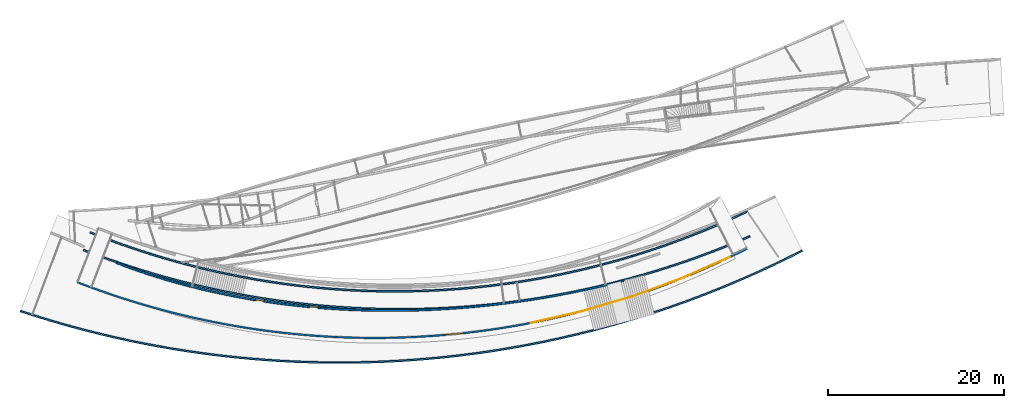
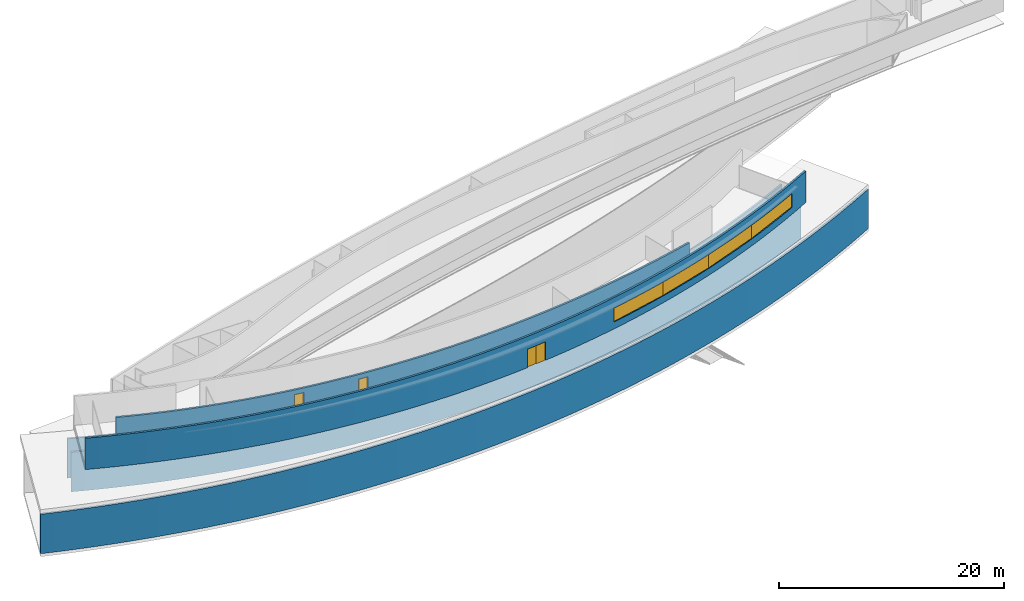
# Not in any storey, part 5 of 14: 5 walls, 4 windows, 3 doors, 7 openings.
"""IFC2X3 model written with IfcOpenShell, lengths in millimetres."""

from ifc_helpers import new_model, entity, si_unit, converted_unit, point, direction, frame, frame_2d, origin_with_axes, origin_2d, place, context, project, spatial, polyline, circle_curve, trimmed, segment, composite_curve, rectangle, outline, extrude, source, transform, mapped, material, layer, layer_set, layer_usage, type_object, element, fill, save


model = new_model("IFC2X3")

# Units and contexts
model_context = context("Model", 3, precision=1.0, world=origin_with_axes(), true_north=direction((0.0, 1.0)))
ifc_project = project(units=[si_unit("LENGTHUNIT", "METRE", prefix="MILLI"), converted_unit("PLANEANGLEUNIT", "DEGREE", entity("IfcRatioMeasure", 0.017453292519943), si_unit("PLANEANGLEUNIT", "RADIAN"), dimensions=[0, 0, 0, 0, 0, 0, 0])], contexts=[model_context])

# Site
site_placement = place(None, origin_with_axes())
site = spatial("IfcSite", under=ifc_project, at=site_placement, Name="Site", CompositionType="ELEMENT")

# Wall, openings, windows, door
ifc_material = material(Name="Wall layer 1")
ifc_layer = layer(ifc_material, 200.0)
ifc_layer_set = layer_set([ifc_layer], Name="HOKI 350")
ifc_layer_usage = layer_usage(ifc_layer_set, "AXIS2", "POSITIVE", -100.0)
wall_type = type_object("IfcWallType", Name="HOKI 350", PredefinedType="STANDARD", material=ifc_layer_set)
wall_1_placement = place(site_placement, frame((22986.8240910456, -6954.58752105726, 9600.0), z_axis=(0.0, 0.0, 1.0), x_axis=(-0.891143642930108, -0.453721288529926, 0.0)))
wall_1 = element("IfcWallStandardCase", 1, at=wall_1_placement, inside=site, type_object=wall_type, material=ifc_layer_usage, ObjectType="HOKI 350", context=model_context, shape_type="SweptSolid", body=[
    extrude(outline(composite_curve([segment(polyline([(69415.8720613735, -31159.3141078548), (69564.7279910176, -31025.7398954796)]), True, "CONTINUOUS"), segment(trimmed(circle_curve(frame_2d((1.05501e-10, -93200.0000001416), x_axis=(0.745602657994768, 0.666390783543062)), 93300.0000001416), [point((69564.7279910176, -31025.7398954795))], [point((7.276e-12, 99.9999999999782))], True, "CARTESIAN"), True, "CONTINUOUS"), segment(polyline([(1.4552e-11, 99.9999999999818), (2.842e-12, -100.000000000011)]), True, "CONTINUOUS"), segment(trimmed(circle_curve(frame_2d((-1.819e-11, -93200.0000001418), x_axis=(0.0, 1.0)), 93100.0000001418), [point((2.842e-12, -100.000000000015))], [point((69415.8720613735, -31159.3141078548))], False, "CARTESIAN"), True, "CONTINUOUS")], self_intersect="UNKNOWN")), origin_with_axes(), (0.0, 0.0, 1.0), 3400.0),
])
opening_1_placement = place(wall_1_placement, frame((22785.9073962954, -2878.11768940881, 749.999999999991), z_axis=(0.0, 0.0, 1.0), x_axis=(-0.969621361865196, 0.244610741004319, 0.0)))
opening_1 = element("IfcOpeningElement", 2, at=opening_1_placement, cuts=wall_1, Name="Opening", ObjectType="Opening", context=model_context, shape_type="SweptSolid", body=[
    extrude(rectangle(XDim=6000.0, YDim=1500.0, at=origin_2d()), frame((0.0, 6000.0, 750.0), z_axis=(0.0, -1.0, 0.0), x_axis=(1.0, 0.0, 0.0)), (0.0, 0.0, 1.0), 12000.0),
])
opening_2_placement = place(wall_1_placement, frame((16979.3912183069, -1608.84172663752, 750.000000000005), z_axis=(0.0, 0.0, 1.0), x_axis=(-0.983247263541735, 0.182276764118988, 0.0)))
opening_2 = element("IfcOpeningElement", 3, at=opening_2_placement, cuts=wall_1, Name="Opening", ObjectType="Opening", context=model_context, shape_type="SweptSolid", body=[
    extrude(rectangle(XDim=6000.0, YDim=1500.0, at=origin_2d()), frame((0.0, 6000.0, 750.0), z_axis=(0.0, -1.0, 0.0), x_axis=(1.0, 0.0, 0.0)), (0.0, 0.0, 1.0), 12000.0),
])
opening_3_placement = place(wall_1_placement, frame((11096.9910586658, -711.639708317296, 750.000000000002), z_axis=(0.0, 0.0, 1.0), x_axis=(-0.992878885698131, 0.119128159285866, 0.0)))
opening_3 = element("IfcOpeningElement", 4, at=opening_3_placement, cuts=wall_1, Name="Opening", ObjectType="Opening", context=model_context, shape_type="SweptSolid", body=[
    extrude(rectangle(XDim=6000.0, YDim=1500.0, at=origin_2d()), frame((0.0, 6000.0, 750.0), z_axis=(0.0, -1.0, 0.0), x_axis=(1.0, 0.0, 0.0)), (0.0, 0.0, 1.0), 12000.0),
])
opening_4_placement = place(wall_1_placement, frame((5165.82633339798, -191.644255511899, 750.000000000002), z_axis=(0.0, 0.0, 1.0), x_axis=(-0.998461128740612, 0.055456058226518, 0.0)))
opening_4 = element("IfcOpeningElement", 5, at=opening_4_placement, cuts=wall_1, Name="Opening", ObjectType="Opening", context=model_context, shape_type="SweptSolid", body=[
    extrude(rectangle(XDim=6000.0, YDim=1500.0, at=origin_2d()), frame((0.0, 6000.0, 750.0), z_axis=(0.0, -1.0, 0.0), x_axis=(1.0, 0.0, 0.0)), (0.0, 0.0, 1.0), 12000.0),
])
opening_5_placement = place(wall_1_placement, frame((33984.4822893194, -6422.7278400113, 0.005258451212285), z_axis=(0.0, 0.0, 1.0), x_axis=(-0.931140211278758, 0.36466135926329, -1e-15)))
opening_5 = element("IfcOpeningElement", 6, at=opening_5_placement, cuts=wall_1, Name="Opening", ObjectType="Opening", context=model_context, shape_type="SweptSolid", body=[
    extrude(rectangle(XDim=2000.0, YDim=2000.0, at=origin_2d()), frame((0.0, 1900.0, 1000.0), z_axis=(0.0, -1.0, 0.0), x_axis=(1.0, 0.0, 0.0)), (0.0, 0.0, 1.0), 3800.0),
])
window_style = type_object("IfcWindowStyle", Name="Fixed", ConstructionType="NOTDEFINED", OperationType="SINGLE_PANEL", ParameterTakesPrecedence=True, Sizeable=False)
shared_shape_1 = source(origin_with_axes(), model_context, "Body", "SweptSolid", [
    extrude(outline(composite_curve([segment(polyline([(0.0, 0.0), (0.0, 1500.0)]), True, "CONTINUOUS"), segment(polyline([(0.0, 1500.0), (-6000.0, 1500.0)]), True, "CONTINUOUS"), segment(polyline([(-6000.0, 1500.0), (-6000.0, 0.0)]), True, "CONTINUOUS"), segment(polyline([(-6000.0, 0.0), (0.0, 0.0)]), True, "CONTINUOUS")], self_intersect=False)), frame((-3000.0, -25.0, 1.819e-12), z_axis=(0.0, 1.0, 0.0), x_axis=(-1.0, 0.0, 0.0)), (0.0, 0.0, 1.0), 50.0),
])
window_1_placement = place(opening_1_placement, origin_with_axes())
window_1 = element("IfcWindow", 7, at=window_1_placement, inside=site, type_object=window_style, ObjectType="Fixed", OverallHeight=1500.0, OverallWidth=6000.0, shape_type="MappedRepresentation", body=[
    mapped(shared_shape_1, transform((0.0, 0.0, 0.0))),
])
fill(opening_1, window_1)
window_2_placement = place(opening_2_placement, origin_with_axes())
window_2 = element("IfcWindow", 8, at=window_2_placement, inside=site, type_object=window_style, ObjectType="Fixed", OverallHeight=1500.0, OverallWidth=6000.0, shape_type="MappedRepresentation", body=[
    mapped(shared_shape_1, transform((0.0, 0.0, 0.0))),
])
fill(opening_2, window_2)
window_3_placement = place(opening_3_placement, origin_with_axes())
window_3 = element("IfcWindow", 9, at=window_3_placement, inside=site, type_object=window_style, ObjectType="Fixed", OverallHeight=1500.0, OverallWidth=6000.0, shape_type="MappedRepresentation", body=[
    mapped(shared_shape_1, transform((0.0, 0.0, 0.0))),
])
fill(opening_3, window_3)
window_4_placement = place(opening_4_placement, origin_with_axes())
window_4 = element("IfcWindow", 10, at=window_4_placement, inside=site, type_object=window_style, ObjectType="Fixed", OverallHeight=1500.0, OverallWidth=6000.0, shape_type="MappedRepresentation", body=[
    mapped(shared_shape_1, transform((0.0, 0.0, 0.0))),
])
fill(opening_4, window_4)
door_style_1 = type_object("IfcDoorStyle", Name="HOKI entrance", ConstructionType="NOTDEFINED", OperationType="DOUBLE_DOOR_SLIDING", ParameterTakesPrecedence=True, Sizeable=False)
shared_shape_2 = source(origin_with_axes(), model_context, "Body", "SweptSolid", [
    extrude(outline(composite_curve([segment(polyline([(0.0, 0.0), (0.0, 1950.0)]), True, "CONTINUOUS"), segment(polyline([(0.0, 1950.0), (1900.0, 1950.0)]), True, "CONTINUOUS"), segment(polyline([(1900.0, 1950.0), (1900.0, 0.0)]), True, "CONTINUOUS"), segment(polyline([(1900.0, 0.0), (1950.0, 0.0)]), True, "CONTINUOUS"), segment(polyline([(1950.0, 0.0), (1950.0, 2000.0)]), True, "CONTINUOUS"), segment(polyline([(1950.0, 2000.0), (-50.0, 2000.0)]), True, "CONTINUOUS"), segment(polyline([(-50.0, 2000.0), (-50.0, 0.0)]), True, "CONTINUOUS"), segment(polyline([(-50.0, 0.0), (0.0, 0.0)]), True, "CONTINUOUS")], self_intersect=False)), frame((949.999999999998, -50.0, 3.638e-12), z_axis=(0.0, 1.0, 0.0), x_axis=(-1.0, 0.0, 0.0)), (0.0, 0.0, 1.0), 100.000000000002),
    extrude(outline(composite_curve([segment(polyline([(0.0, 0.0), (0.0, -1950.0)]), True, "CONTINUOUS"), segment(polyline([(0.0, -1950.0), (950.0, -1950.0)]), True, "CONTINUOUS"), segment(polyline([(950.0, -1950.0), (950.0, 0.0)]), True, "CONTINUOUS"), segment(polyline([(950.0, 0.0), (0.0, 0.0)]), True, "CONTINUOUS")], self_intersect=False)), frame((-3.638e-12, 1.819e-12, 1950.0), z_axis=(0.0, 1.0, 0.0), x_axis=(-1.0, 0.0, 0.0)), (0.0, 0.0, 1.0), 49.9999999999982),
    extrude(outline(composite_curve([segment(polyline([(0.0, 0.0), (0.0, 1950.0)]), True, "CONTINUOUS"), segment(polyline([(0.0, 1950.0), (-950.0, 1950.0)]), True, "CONTINUOUS"), segment(polyline([(-950.0, 1950.0), (-950.0, 0.0)]), True, "CONTINUOUS"), segment(polyline([(-950.0, 0.0), (0.0, 0.0)]), True, "CONTINUOUS")], self_intersect=False)), frame((-1.819e-12, -49.9999999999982, 1.819e-12), z_axis=(-3.6e-14, 1.0, 0.0), x_axis=(-1.0, -3.6e-14, 0.0)), (0.0, 0.0, 1.0), 50.0),
])
door_1_placement = place(opening_5_placement, origin_with_axes())
door_1 = element("IfcDoor", 11, at=door_1_placement, inside=site, type_object=door_style_1, ObjectType="HOKI entrance", OverallHeight=2000.0, OverallWidth=2000.0, shape_type="MappedRepresentation", body=[
    mapped(shared_shape_2, transform((0.0, 0.0, 0.0))),
])
fill(opening_5, door_1)

# Wall
wall_2_placement = place(site_placement, frame((23005.4725344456, -2731.30147245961, 4720.0), z_axis=(0.0, 0.0, 1.0), x_axis=(-0.902152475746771, -0.431417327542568, 0.0)))
element("IfcWallStandardCase", 12, at=wall_2_placement, inside=site, type_object=wall_type, material=ifc_layer_usage, ObjectType="HOKI 350", context=model_context, shape_type="SweptSolid", body=[
    extrude(outline(composite_curve([segment(polyline([(68269.5730359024, -30109.7913044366), (68416.9304861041, -29974.5663737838)]), True, "CONTINUOUS"), segment(trimmed(circle_curve(frame_2d((6.5484e-11, -92758.4613705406), x_axis=(0.736787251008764, 0.676124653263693)), 92858.4613705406), [point((68416.9304861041, -29974.5663737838))], [point((0.0, 100.000000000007))], True, "CARTESIAN"), True, "CONTINUOUS"), segment(polyline([(7.273e-12, 99.9999999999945), (1.881e-12, -100.000000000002)]), True, "CONTINUOUS"), segment(trimmed(circle_curve(frame_2d((-3.638e-11, -92758.4613705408), x_axis=(0.0, 1.0)), 92658.4613705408), [point((1.881e-12, -100.0))], [point((68269.5730359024, -30109.7913044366))], False, "CARTESIAN"), True, "CONTINUOUS")], self_intersect="UNKNOWN")), origin_with_axes(), (0.0, 0.0, 1.0), 4280.0),
])

# Wall, openings, doors
wall_3_placement = place(site_placement, frame((-48624.6791750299, -8555.02575011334, 9849.99645367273), z_axis=(0.0, 0.0, 1.0), x_axis=(0.932221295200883, -0.361888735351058, 0.0)))
wall_3 = element("IfcWallStandardCase", 13, at=wall_3_placement, inside=site, type_object=wall_type, material=ifc_layer_usage, ObjectType="HOKI 350", context=model_context, shape_type="SweptSolid", body=[
    extrude(outline(composite_curve([segment(polyline([(54499.1752148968, 18870.5823902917), (54382.558202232, 19033.0646119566)]), True, "CONTINUOUS"), segment(polyline([(54382.558202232, 19033.0646119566), (53641.359081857, 18505.8406612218), (52895.9803296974, 17985.0986751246), (52146.2279499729, 17470.6699086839), (51391.907946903, 16962.3856169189), (50625.7670611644, 16455.4602923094), (49855.6376175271, 15955.2057872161), (49081.3076038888, 15461.4771803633), (48302.5650081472, 14974.1295504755), (47523.1580852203, 14495.4194298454), (46740.2873269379, 14023.5755772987), (45953.8209492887, 13558.5502342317), (45163.6271682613, 13100.2956420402), (44369.5741998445, 12648.7640421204), (43571.530260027, 12203.9076758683), (42769.3635647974, 11765.67878468), (41962.9423301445, 11334.0296099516), (41152.8408670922, 10909.3041121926), (40339.6749809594, 10491.8658694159), (39523.3106644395, 10081.6623972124), (38703.6139102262, 9678.64121117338), (37880.4507110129, 9282.74982688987), (37053.6870594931, 8893.93575995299), (36223.1889483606, 8512.14652595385), (35388.8223703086, 8137.32964048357), (34969.2066035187, 7952.11442439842), (34548.9007919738, 7768.79670539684), (34127.8710787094, 7587.36845136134), (33706.0836067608, 7407.82163017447), (33283.5045191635, 7230.14820971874), (32860.0999589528, 7054.34015787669), (32435.8360691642, 6880.38944253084), (32010.678992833, 6708.28803156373), (31587.2573304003, 6539.08638664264), (31163.2083390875, 6371.83062450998), (30738.4958241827, 6206.51648180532), (30313.0835909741, 6043.13969516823), (29886.9354447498, 5881.69600123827), (29460.015190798, 5722.18113665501), (29032.2866344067, 5564.59083805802), (28603.7135808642, 5408.92084208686), (28171.0889069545, 5254.04566607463), (27737.8795277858, 5101.24553581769), (27304.0479881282, 4950.51404717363), (26869.5568327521, 4801.84479600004), (26434.3686064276, 4655.23137815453), (25998.4458539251, 4510.66738949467), (25561.7511200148, 4368.14642587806), (25124.246949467, 4227.66208316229), (24691.0675383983, 4090.82720256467), (24257.3853512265, 3956.08393072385), (23823.1619602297, 3823.42839515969), (23388.3589376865, 3692.85672339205), (22952.9378558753, 3564.36504294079), (22516.8602870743, 3437.94948132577), (22080.087803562, 3313.60616606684), (21642.5819776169, 3191.33122468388), (21197.9809880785, 3069.4046419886), (20752.9367659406, 2949.71362702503), (20307.4069010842, 2832.25915334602), (19861.3489833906, 2717.04219450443), (19414.7206027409, 2604.0637240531), (18967.4793490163, 2493.32471554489), (18519.5828120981, 2384.82614253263), (18070.9885818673, 2278.56897856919), (17629.502144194, 2176.35185576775), (17187.6650411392, 2076.40269603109), (16745.4327662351, 1978.72764828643), (16302.7608130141, 1883.33286146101), (15859.6046750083, 1790.22448448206), (15415.91984575, 1699.40866627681), (14971.6618187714, 1610.89155577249), (14526.7860876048, 1524.67930189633), (14072.3459552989, 1439.1312604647), (13617.6283267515, 1356.08923019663), (13162.5849315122, 1275.55686169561), (12707.1674991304, 1197.53780556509), (12251.3277591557, 1122.03571240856), (11795.0174411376, 1049.05423282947), (11338.1882746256, 978.597017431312), (10880.7919891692, 910.667716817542), (10433.6106500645, 846.789887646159), (9986.26992610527, 785.410704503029), (9538.72003355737, 726.541217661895), (9090.91118868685, 670.192477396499), (8642.79360775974, 616.375533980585), (8194.31750704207, 565.101437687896), (7745.43310279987, 516.381238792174), (7296.09061129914, 470.225987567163), (6834.35136213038, 425.535086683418), (6372.56947465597, 383.635394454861), (5910.68878845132, 344.541861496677), (5448.65314309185, 308.269438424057), (4986.40637815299, 274.833075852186), (4523.89233321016, 244.247724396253), (4061.05484783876, 216.528334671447), (3597.83776161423, 191.689857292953), (3148.1516011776, 170.368067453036), (2698.56687606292, 151.822431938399), (2249.0266457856, 136.073524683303), (1799.4739698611, 123.141919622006), (1349.85190780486, 113.048190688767), (900.103519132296, 105.812911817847), (450.171863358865, 101.456656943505), (-6e-15, 100.0)]), True, "CONTINUOUS"), segment(polyline([(-6e-15, 100.0), (-7.27e-12, -100.000000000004)]), True, "CONTINUOUS"), segment(polyline([(-7.27e-12, -100.000000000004), (451.251599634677, -98.537467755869), (902.432805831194, -94.1646735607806), (1353.54145513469, -86.9038212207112), (1804.5753840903, -76.777114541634), (2255.53242924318, -63.8067573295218), (2706.41042713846, -48.0149533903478), (3157.20721432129, -29.4239065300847), (3607.92062733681, -8.05582055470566), (4072.18253487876, 16.8409381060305), (4536.230182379, 44.6370190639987), (5000.06241674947, 75.3130535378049), (5463.6780849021, 108.849672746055), (5927.07603374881, 145.227507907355), (6390.25511020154, 184.427190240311), (6853.21416117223, 226.429350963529), (7315.95203357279, 271.214621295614), (7766.25296461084, 317.470241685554), (8216.24720964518, 366.314487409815), (8665.93201630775, 417.729767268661), (9115.30463223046, 471.698490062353), (9564.36230504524, 528.203064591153), (10013.102282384, 587.225899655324), (10461.5218118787, 648.749404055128), (10909.6181411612, 712.755986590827), (11367.9397923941, 780.824565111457), (11825.8429064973, 851.45088191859), (12283.3247335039, 924.62263788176), (12740.3825234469, 1000.3275338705), (13197.0135263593, 1078.55327075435), (13653.2149922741, 1159.28754940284), (14108.9841712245, 1242.51807068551), (14564.3183132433, 1328.23253547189), (15010.0575126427, 1414.61374405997), (15455.3150738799, 1503.33304416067), (15900.0882208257, 1594.37415814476), (16344.3741773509, 1687.720808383), (16788.1701673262, 1783.35671724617), (17231.4734146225, 1881.26560710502), (17674.2811431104, 1981.43120033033), (18116.5905766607, 2083.83721929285), (18566.0122265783, 2190.29192003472), (19014.8681544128, 2299.02579739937), (19463.1552650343, 2410.02619701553), (19910.8704633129, 2523.2804645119), (20358.0106541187, 2638.7759455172), (20804.5727423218, 2756.49998566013), (21250.5536327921, 2876.43993056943), (21695.9502303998, 2998.58312587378), (22134.2327737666, 3121.07656909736), (22571.9074431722, 3245.67939782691), (23008.9697522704, 3372.38267914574), (23445.4152147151, 3501.17748013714), (23881.2393441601, 3632.0548678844), (24316.4376542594, 3765.00590947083), (24751.0056586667, 3900.02167197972), (25184.9388710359, 4037.09322249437), (25623.2010446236, 4177.82237206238), (26060.7766564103, 4320.63347022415), (26497.6612281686, 4465.51865896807), (26933.850281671, 4612.47008028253), (27369.3393386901, 4761.47987615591), (27804.1239209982, 4912.54018857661), (28238.199550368, 5065.64315953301), (28671.561748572, 5220.78093101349), (29100.8567938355, 5376.71448928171), (29529.4226770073, 5534.61575431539), (29957.2558668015, 5694.47380054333), (30384.3528319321, 5856.27770239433), (30810.7100411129, 6020.01653429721), (31236.323963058, 6185.67937068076), (31661.1910664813, 6353.25528597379), (32085.3078200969, 6522.73335460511), (32511.1576804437, 6695.11647576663), (32936.2262940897, 6869.3995292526), (33360.5092395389, 7045.57433005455), (33784.0020952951, 7223.63269316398), (34206.7004398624, 7403.56643357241), (34628.5998517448, 7585.36736627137), (35049.6959094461, 7769.02730625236), (35469.9841914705, 7954.53806850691), (36305.6763835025, 8329.9554142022), (37137.7127701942, 8712.46118346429), (37966.1542689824, 9102.07227223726), (38791.0617973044, 9498.8055764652), (39612.4962725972, 9902.67799209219), (40430.5186122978, 10313.7064150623), (41245.1897338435, 10731.9077413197), (42056.5705546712, 11157.2988668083), (42864.2509445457, 11589.6269266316), (43667.8746541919, 12028.6610385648), (44467.5045786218, 12474.4093027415), (45263.2036128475, 12926.8798192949), (46055.0346518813, 13386.0806883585), (46843.0605907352, 13852.0200100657), (47627.3443244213, 14324.7058845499), (48407.9487479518, 14804.1464119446), (49187.9857297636, 15292.3080397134), (49963.8717093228, 15787.0316865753), (50735.5523074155, 16288.2908594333), (51502.9731448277, 16796.0590651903), (52258.5542848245, 17305.197196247), (53009.825922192, 17820.6713936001), (53756.7216883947, 18342.4702580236), (54499.1752148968, 18870.5823902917)]), True, "CONTINUOUS")], self_intersect="UNKNOWN")), origin_with_axes(), (0.0, 0.0, 1.0), 2500.0),
])
opening_6_placement = place(wall_3_placement, frame((22727.3713739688, 3395.69860423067, 0.0), z_axis=(0.0, 0.0, 1.0), x_axis=(0.960563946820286, 0.278059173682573, 0.0)))
opening_6 = element("IfcOpeningElement", 14, at=opening_6_placement, cuts=wall_3, Name="Opening", ObjectType="Opening", context=model_context, shape_type="SweptSolid", body=[
    extrude(rectangle(XDim=900.0, YDim=2000.0, at=origin_2d()), frame((0.0, 800.0, 1000.0), z_axis=(0.0, -1.0, 0.0), x_axis=(1.0, 0.0, 0.0)), (0.0, 0.0, 1.0), 1600.0),
])
opening_7_placement = place(wall_3_placement, frame((16738.5927159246, 1876.06397901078, 0.0), z_axis=(0.0, 0.0, 1.0), x_axis=(0.977085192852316, 0.212848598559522, -2e-15)))
opening_7 = element("IfcOpeningElement", 15, at=opening_7_placement, cuts=wall_3, Name="Opening", ObjectType="Opening", context=model_context, shape_type="SweptSolid", body=[
    extrude(rectangle(XDim=900.0, YDim=2000.0, at=origin_2d()), frame((0.0, 800.0, 1000.0), z_axis=(0.0, -1.0, 0.0), x_axis=(1.0, 0.0, 0.0)), (0.0, 0.0, 1.0), 1600.0),
])
door_style_2 = type_object("IfcDoorStyle", Name="HOKI", ConstructionType="NOTDEFINED", OperationType="SINGLE_SWING_LEFT", ParameterTakesPrecedence=True, Sizeable=False)
shared_shape_3 = source(origin_with_axes(), model_context, "Body", "SweptSolid", [
    extrude(outline(composite_curve([segment(polyline([(0.0, 0.0), (0.0, 1950.0)]), True, "CONTINUOUS"), segment(polyline([(0.0, 1950.0), (-800.0, 1950.0)]), True, "CONTINUOUS"), segment(polyline([(-800.0, 1950.0), (-800.0, 0.0)]), True, "CONTINUOUS"), segment(polyline([(-800.0, 0.0), (0.0, 0.0)]), True, "CONTINUOUS")], self_intersect=False)), frame((-400.000000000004, 0.0, 0.0), z_axis=(7.3e-14, 1.0, 0.0), x_axis=(-1.0, 7.3e-14, 0.0)), (0.0, 0.0, 1.0), 50.0000000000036),
    extrude(outline(composite_curve([segment(polyline([(0.0, 0.0), (0.0, 1950.0)]), True, "CONTINUOUS"), segment(polyline([(0.0, 1950.0), (800.0, 1950.0)]), True, "CONTINUOUS"), segment(polyline([(800.0, 1950.0), (800.0, 0.0)]), True, "CONTINUOUS"), segment(polyline([(800.0, 0.0), (850.0, 0.0)]), True, "CONTINUOUS"), segment(polyline([(850.0, 0.0), (850.0, 2000.0)]), True, "CONTINUOUS"), segment(polyline([(850.0, 2000.0), (-50.0, 2000.0)]), True, "CONTINUOUS"), segment(polyline([(-50.0, 2000.0), (-50.0, 0.0)]), True, "CONTINUOUS"), segment(polyline([(-50.0, 0.0), (0.0, 0.0)]), True, "CONTINUOUS")], self_intersect=False)), frame((400.0, -50.0, 1.819e-12), z_axis=(-3.6e-14, 1.0, 0.0), x_axis=(-1.0, -3.6e-14, 0.0)), (0.0, 0.0, 1.0), 100.0),
])
door_2_placement = place(opening_6_placement, origin_with_axes())
door_2 = element("IfcDoor", 16, at=door_2_placement, inside=site, type_object=door_style_2, ObjectType="HOKI", OverallHeight=2000.0, OverallWidth=900.0, shape_type="MappedRepresentation", body=[
    mapped(shared_shape_3, transform((0.0, 0.0, 0.0))),
])
fill(opening_6, door_2)
door_3_placement = place(opening_7_placement, origin_with_axes())
door_3 = element("IfcDoor", 17, at=door_3_placement, inside=site, type_object=door_style_2, ObjectType="HOKI", OverallHeight=2000.0, OverallWidth=900.0, shape_type="MappedRepresentation", body=[
    mapped(shared_shape_3, transform((0.0, 0.0, 0.0))),
])
fill(opening_7, door_3)

# Walls
wall_4_placement = place(site_placement, frame((23301.8343740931, -5554.32817820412, 4720.0), z_axis=(0.0, 0.0, 1.0), x_axis=(-0.916614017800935, -0.399773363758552, 0.0)))
element("IfcWallStandardCase", 18, at=wall_4_placement, inside=site, type_object=wall_type, material=ifc_layer_usage, ObjectType="HOKI 350", context=model_context, shape_type="SweptSolid", body=[
    extrude(outline(composite_curve([segment(polyline([(69911.8155104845, -28898.7731235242), (70052.6840427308, -28756.8010959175)]), True, "CONTINUOUS"), segment(trimmed(circle_curve(frame_2d((-5.457e-11, -99358.2436909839), x_axis=(0.704342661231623, 0.709860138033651)), 99458.2436909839), [point((70052.6840427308, -28756.8010959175))], [point((-3.638e-11, 100.000000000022))], True, "CARTESIAN"), True, "CONTINUOUS"), segment(polyline([(-3.638e-12, 100.000000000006), (7.731e-12, -99.9999999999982)]), True, "CONTINUOUS"), segment(trimmed(circle_curve(frame_2d((1.05501e-10, -99358.2436909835), x_axis=(0.0, 1.0)), 99258.2436909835), [point((7.731e-12, -100.0))], [point((69911.8155104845, -28898.7731235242))], False, "CARTESIAN"), True, "CONTINUOUS")], self_intersect="UNKNOWN")), origin_with_axes(), (0.0, 0.0, 1.0), 4280.0),
])
wall_5_placement = place(site_placement, frame((-59527.9488674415, -14044.5634049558, 4720.0), z_axis=(0.0, 0.0, 1.0), x_axis=(0.949083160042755, -0.315025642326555, 0.0)))
element("IfcWallStandardCase", 19, at=wall_5_placement, inside=site, type_object=wall_type, material=ifc_layer_usage, ObjectType="HOKI 350", context=model_context, shape_type="SweptSolid", body=[
    extrude(outline(composite_curve([segment(polyline([(82177.402617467, 34409.1537516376), (82034.6095633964, 34549.1899744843)]), True, "CONTINUOUS"), segment(trimmed(circle_curve(frame_2d((6.5484e-11, 114999.999999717), x_axis=(0.713965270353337, -0.700181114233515)), 114899.999999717), [point((82034.6095633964, 34549.1899744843))], [point((7.276e-12, 99.9999999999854))], False, "CARTESIAN"), True, "CONTINUOUS"), segment(polyline([(3.641e-12, 100.000000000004), (-6.997e-12, -100.000000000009)]), True, "CONTINUOUS"), segment(trimmed(circle_curve(frame_2d((9.0949e-11, 114999.999999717), x_axis=(-1e-15, -1.0)), 115099.999999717), [point((-6.997e-12, -100.000000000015))], [point((82177.4026174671, 34409.1537516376))], True, "CARTESIAN"), True, "CONTINUOUS")], self_intersect="UNKNOWN")), origin_with_axes(), (0.0, 0.0, 1.0), 4280.0),
])

save(model, "model.ifc")
